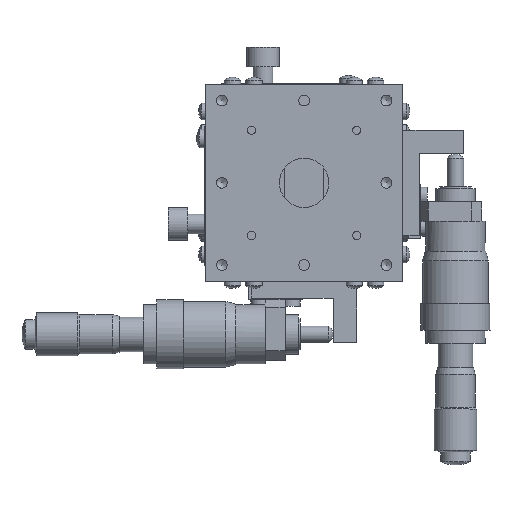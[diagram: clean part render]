
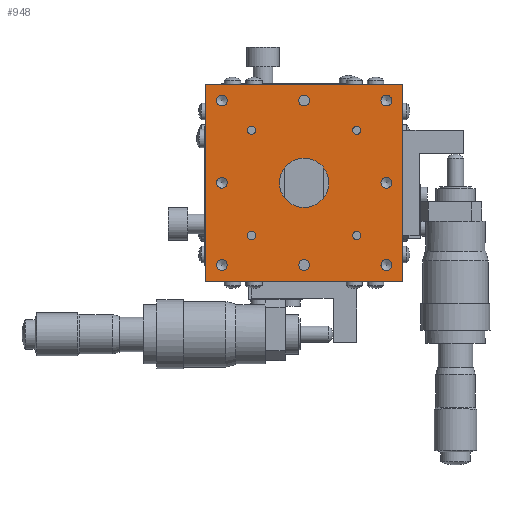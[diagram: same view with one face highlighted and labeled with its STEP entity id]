
A CAD part, top view. The second image highlights one B-rep face of the part: STEP entity #948.
In plain terms, the highlighted planar face has unit normal (0, 0, 1).
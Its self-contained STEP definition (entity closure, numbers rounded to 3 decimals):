
#948 = ADVANCED_FACE( '', ( #2154, #2155, #2156, #2157, #2158, #2159, #2160, #2161, #2162, #2163, #2164, #2165, #2166, #2167 ), #2168, .T. );
#2154 = FACE_BOUND( '', #3557, .T. );
#2155 = FACE_BOUND( '', #3558, .T. );
#2156 = FACE_BOUND( '', #3559, .T. );
#2157 = FACE_BOUND( '', #3560, .T. );
#2158 = FACE_BOUND( '', #3561, .T. );
#2159 = FACE_BOUND( '', #3562, .T. );
#2160 = FACE_BOUND( '', #3563, .T. );
#2161 = FACE_BOUND( '', #3564, .T. );
#2162 = FACE_BOUND( '', #3565, .T. );
#2163 = FACE_BOUND( '', #3566, .T. );
#2164 = FACE_BOUND( '', #3567, .T. );
#2165 = FACE_BOUND( '', #3568, .T. );
#2166 = FACE_OUTER_BOUND( '', #3569, .T. );
#2167 = FACE_BOUND( '', #3570, .T. );
#2168 = PLANE( '', #3571 );
#3557 = EDGE_LOOP( '', ( #5949 ) );
#3558 = EDGE_LOOP( '', ( #5950 ) );
#3559 = EDGE_LOOP( '', ( #5951 ) );
#3560 = EDGE_LOOP( '', ( #5952 ) );
#3561 = EDGE_LOOP( '', ( #5953 ) );
#3562 = EDGE_LOOP( '', ( #5954 ) );
#3563 = EDGE_LOOP( '', ( #5955 ) );
#3564 = EDGE_LOOP( '', ( #5956 ) );
#3565 = EDGE_LOOP( '', ( #5957 ) );
#3566 = EDGE_LOOP( '', ( #5958 ) );
#3567 = EDGE_LOOP( '', ( #5959 ) );
#3568 = EDGE_LOOP( '', ( #5960 ) );
#3569 = EDGE_LOOP( '', ( #5961, #5962, #5963, #5964 ) );
#3570 = EDGE_LOOP( '', ( #5965 ) );
#3571 = AXIS2_PLACEMENT_3D( '', #5966, #5967, #5968 );
#5949 = ORIENTED_EDGE( '', *, *, #7673, .F. );
#5950 = ORIENTED_EDGE( '', *, *, #6947, .F. );
#5951 = ORIENTED_EDGE( '', *, *, #7155, .F. );
#5952 = ORIENTED_EDGE( '', *, *, #7342, .F. );
#5953 = ORIENTED_EDGE( '', *, *, #7674, .F. );
#5954 = ORIENTED_EDGE( '', *, *, #7675, .F. );
#5955 = ORIENTED_EDGE( '', *, *, #7119, .F. );
#5956 = ORIENTED_EDGE( '', *, *, #7384, .F. );
#5957 = ORIENTED_EDGE( '', *, *, #7597, .F. );
#5958 = ORIENTED_EDGE( '', *, *, #6909, .F. );
#5959 = ORIENTED_EDGE( '', *, *, #6912, .F. );
#5960 = ORIENTED_EDGE( '', *, *, #7044, .F. );
#5961 = ORIENTED_EDGE( '', *, *, #7651, .F. );
#5962 = ORIENTED_EDGE( '', *, *, #7676, .F. );
#5963 = ORIENTED_EDGE( '', *, *, #7612, .F. );
#5964 = ORIENTED_EDGE( '', *, *, #7514, .F. );
#5965 = ORIENTED_EDGE( '', *, *, #7366, .T. );
#5966 = CARTESIAN_POINT( '', ( 0., 0., 40. ) );
#5967 = DIRECTION( '', ( 0., 0., 1. ) );
#5968 = DIRECTION( '', ( 1., 0., 0. ) );
#6909 = EDGE_CURVE( '', #8033, #8033, #8034, .T. );
#6912 = EDGE_CURVE( '', #8038, #8038, #8039, .T. );
#6947 = EDGE_CURVE( '', #8100, #8100, #8101, .T. );
#7044 = EDGE_CURVE( '', #8269, #8269, #8270, .T. );
#7119 = EDGE_CURVE( '', #8393, #8393, #8394, .T. );
#7155 = EDGE_CURVE( '', #8449, #8449, #8450, .T. );
#7342 = EDGE_CURVE( '', #8727, #8727, #8728, .T. );
#7366 = EDGE_CURVE( '', #8765, #8765, #8766, .T. );
#7384 = EDGE_CURVE( '', #8793, #8793, #8794, .T. );
#7514 = EDGE_CURVE( '', #8991, #8993, #8994, .T. );
#7597 = EDGE_CURVE( '', #9108, #9108, #9109, .T. );
#7612 = EDGE_CURVE( '', #8993, #9128, #9129, .T. );
#7651 = EDGE_CURVE( '', #9177, #8991, #9179, .T. );
#7673 = EDGE_CURVE( '', #9206, #9206, #9207, .T. );
#7674 = EDGE_CURVE( '', #9208, #9208, #9209, .T. );
#7675 = EDGE_CURVE( '', #9210, #9210, #9211, .T. );
#7676 = EDGE_CURVE( '', #9128, #9177, #9212, .T. );
#8033 = VERTEX_POINT( '', #9627 );
#8034 = CIRCLE( '', #9628, 1.65 );
#8038 = VERTEX_POINT( '', #9632 );
#8039 = CIRCLE( '', #9633, 1.65 );
#8100 = VERTEX_POINT( '', #9710 );
#8101 = CIRCLE( '', #9711, 1.25 );
#8269 = VERTEX_POINT( '', #9941 );
#8270 = CIRCLE( '', #9942, 1.65 );
#8393 = VERTEX_POINT( '', #10109 );
#8394 = CIRCLE( '', #10110, 1.65 );
#8449 = VERTEX_POINT( '', #10182 );
#8450 = CIRCLE( '', #10183, 1.25 );
#8727 = VERTEX_POINT( '', #10549 );
#8728 = CIRCLE( '', #10550, 1.25 );
#8765 = VERTEX_POINT( '', #10596 );
#8766 = CIRCLE( '', #10597, 7.5 );
#8793 = VERTEX_POINT( '', #10630 );
#8794 = CIRCLE( '', #10631, 1.65 );
#8991 = VERTEX_POINT( '', #10872 );
#8993 = VERTEX_POINT( '', #10875 );
#8994 = LINE( '', #10876, #10877 );
#9108 = VERTEX_POINT( '', #11017 );
#9109 = CIRCLE( '', #11018, 1.65 );
#9128 = VERTEX_POINT( '', #11039 );
#9129 = LINE( '', #11040, #11041 );
#9177 = VERTEX_POINT( '', #11102 );
#9179 = LINE( '', #11105, #11106 );
#9206 = VERTEX_POINT( '', #11141 );
#9207 = CIRCLE( '', #11142, 1.25 );
#9208 = VERTEX_POINT( '', #11143 );
#9209 = CIRCLE( '', #11144, 1.65 );
#9210 = VERTEX_POINT( '', #11145 );
#9211 = CIRCLE( '', #11146, 1.65 );
#9212 = LINE( '', #11147, #11148 );
#9627 = CARTESIAN_POINT( '', ( 25., -26.65, 40. ) );
#9628 = AXIS2_PLACEMENT_3D( '', #11515, #11516, #11517 );
#9632 = CARTESIAN_POINT( '', ( 0., -26.65, 40. ) );
#9633 = AXIS2_PLACEMENT_3D( '', #11521, #11522, #11523 );
#9710 = CARTESIAN_POINT( '', ( 16., 14.75, 40. ) );
#9711 = AXIS2_PLACEMENT_3D( '', #11570, #11571, #11572 );
#9941 = CARTESIAN_POINT( '', ( -25., -26.65, 40. ) );
#9942 = AXIS2_PLACEMENT_3D( '', #11683, #11684, #11685 );
#10109 = CARTESIAN_POINT( '', ( 0., 23.35, 40. ) );
#10110 = AXIS2_PLACEMENT_3D( '', #11772, #11773, #11774 );
#10182 = CARTESIAN_POINT( '', ( 16., -17.25, 40. ) );
#10183 = AXIS2_PLACEMENT_3D( '', #11816, #11817, #11818 );
#10549 = CARTESIAN_POINT( '', ( -16., -17.25, 40. ) );
#10550 = AXIS2_PLACEMENT_3D( '', #12037, #12038, #12039 );
#10596 = CARTESIAN_POINT( '', ( -7.5, 0., 40. ) );
#10597 = AXIS2_PLACEMENT_3D( '', #12076, #12077, #12078 );
#10630 = CARTESIAN_POINT( '', ( 25., 23.35, 40. ) );
#10631 = AXIS2_PLACEMENT_3D( '', #12100, #12101, #12102 );
#10872 = CARTESIAN_POINT( '', ( -30., 30., 40. ) );
#10875 = CARTESIAN_POINT( '', ( 30., 30., 40. ) );
#10876 = CARTESIAN_POINT( '', ( 0., 30., 40. ) );
#10877 = VECTOR( '', #12277, 1000. );
#11017 = CARTESIAN_POINT( '', ( 25., -1.65, 40. ) );
#11018 = AXIS2_PLACEMENT_3D( '', #12376, #12377, #12378 );
#11039 = CARTESIAN_POINT( '', ( 30., -30., 40. ) );
#11040 = CARTESIAN_POINT( '', ( 30., 0., 40. ) );
#11041 = VECTOR( '', #12393, 1000. );
#11102 = CARTESIAN_POINT( '', ( -30., -30., 40. ) );
#11105 = CARTESIAN_POINT( '', ( -30., 0., 40. ) );
#11106 = VECTOR( '', #12435, 1000. );
#11141 = CARTESIAN_POINT( '', ( -16., 14.75, 40. ) );
#11142 = AXIS2_PLACEMENT_3D( '', #12450, #12451, #12452 );
#11143 = CARTESIAN_POINT( '', ( -25., -1.65, 40. ) );
#11144 = AXIS2_PLACEMENT_3D( '', #12453, #12454, #12455 );
#11145 = CARTESIAN_POINT( '', ( -25., 23.35, 40. ) );
#11146 = AXIS2_PLACEMENT_3D( '', #12456, #12457, #12458 );
#11147 = CARTESIAN_POINT( '', ( 0., -30., 40. ) );
#11148 = VECTOR( '', #12459, 1000. );
#11515 = CARTESIAN_POINT( '', ( 25., -25., 40. ) );
#11516 = DIRECTION( '', ( 0., 0., 1. ) );
#11517 = DIRECTION( '', ( 0., -1., 0. ) );
#11521 = CARTESIAN_POINT( '', ( 0., -25., 40. ) );
#11522 = DIRECTION( '', ( 0., 0., 1. ) );
#11523 = DIRECTION( '', ( 0., -1., 0. ) );
#11570 = CARTESIAN_POINT( '', ( 16., 16., 40. ) );
#11571 = DIRECTION( '', ( 0., 0., 1. ) );
#11572 = DIRECTION( '', ( 0., -1., 0. ) );
#11683 = CARTESIAN_POINT( '', ( -25., -25., 40. ) );
#11684 = DIRECTION( '', ( 0., 0., 1. ) );
#11685 = DIRECTION( '', ( 0., -1., 0. ) );
#11772 = CARTESIAN_POINT( '', ( 0., 25., 40. ) );
#11773 = DIRECTION( '', ( 0., 0., 1. ) );
#11774 = DIRECTION( '', ( 0., -1., 0. ) );
#11816 = CARTESIAN_POINT( '', ( 16., -16., 40. ) );
#11817 = DIRECTION( '', ( 0., 0., 1. ) );
#11818 = DIRECTION( '', ( 0., -1., 0. ) );
#12037 = CARTESIAN_POINT( '', ( -16., -16., 40. ) );
#12038 = DIRECTION( '', ( 0., 0., 1. ) );
#12039 = DIRECTION( '', ( 0., -1., 0. ) );
#12076 = CARTESIAN_POINT( '', ( 0., 0., 40. ) );
#12077 = DIRECTION( '', ( 0., 0., -1. ) );
#12078 = DIRECTION( '', ( -1., 0., 0. ) );
#12100 = CARTESIAN_POINT( '', ( 25., 25., 40. ) );
#12101 = DIRECTION( '', ( 0., 0., 1. ) );
#12102 = DIRECTION( '', ( 0., -1., 0. ) );
#12277 = DIRECTION( '', ( 1., 0., 0. ) );
#12376 = CARTESIAN_POINT( '', ( 25., 0., 40. ) );
#12377 = DIRECTION( '', ( 0., 0., 1. ) );
#12378 = DIRECTION( '', ( 0., -1., 0. ) );
#12393 = DIRECTION( '', ( 0., -1., 0. ) );
#12435 = DIRECTION( '', ( 0., 1., 0. ) );
#12450 = CARTESIAN_POINT( '', ( -16., 16., 40. ) );
#12451 = DIRECTION( '', ( 0., 0., 1. ) );
#12452 = DIRECTION( '', ( 0., -1., 0. ) );
#12453 = CARTESIAN_POINT( '', ( -25., 0., 40. ) );
#12454 = DIRECTION( '', ( 0., 0., 1. ) );
#12455 = DIRECTION( '', ( 0., -1., 0. ) );
#12456 = CARTESIAN_POINT( '', ( -25., 25., 40. ) );
#12457 = DIRECTION( '', ( 0., 0., 1. ) );
#12458 = DIRECTION( '', ( 0., -1., 0. ) );
#12459 = DIRECTION( '', ( -1., 0., 0. ) );
